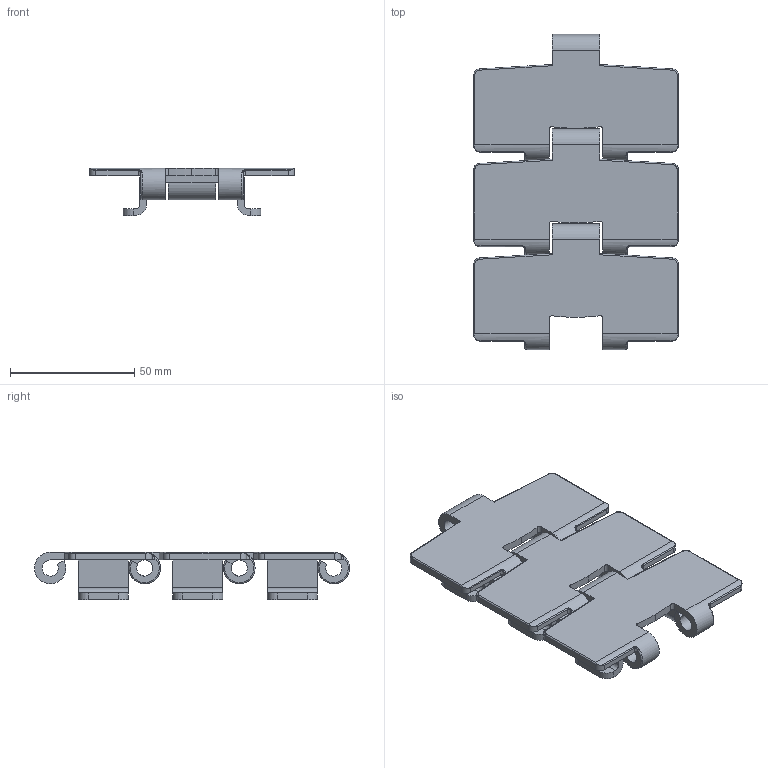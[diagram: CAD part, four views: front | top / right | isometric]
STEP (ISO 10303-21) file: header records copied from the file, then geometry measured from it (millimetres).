
FILE_DESCRIPTION(('CATIA V5 STEP Exchange'),'2;1');
FILE_NAME('X:\CODICI MOVEX\3D per clienti\3D definitivi\Part 1000\P10100202_01.stp','2016-08-24T14:01:05+00:00',('none'),('none'),'Version 5-6 Release 2012','CATIA V5 STEP AP203','none');
FILE_SCHEMA(('CONFIG_CONTROL_DESIGN'));
Length unit declared in the file: millimetre
Products named in the file (1): P10100202_01
Bounding box: 82.5 x 127 x 19.1 mm (x, y, z)
Volume: 43316.3 mm3; surface area: 31672.4 mm2
Topology: 3 solids, 3 shells, 240 faces, 669 edges, 444 vertices
Faces by surface type: cylinder 114, plane 108, torus 12, bspline 6
Entity records: 7769 total; most frequent: CARTESIAN_POINT 2108, ORIENTED_EDGE 1338, DIRECTION 872, EDGE_CURVE 669, VERTEX_POINT 444, VECTOR 393, LINE 393, AXIS2_PLACEMENT_3D 344
